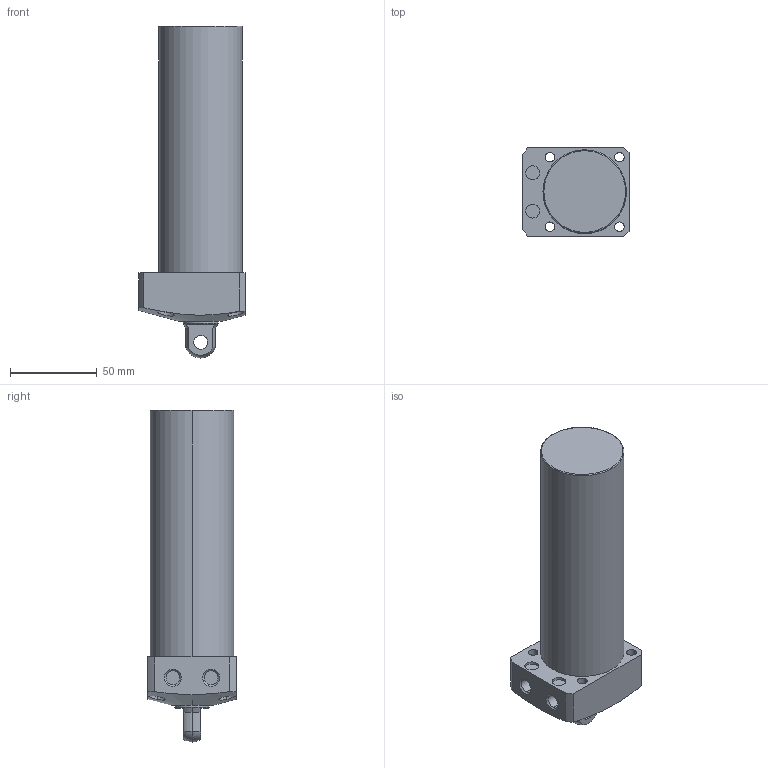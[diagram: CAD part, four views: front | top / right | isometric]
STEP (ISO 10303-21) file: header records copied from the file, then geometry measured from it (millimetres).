
FILE_DESCRIPTION (( 'STEP AP203' ), '1' );
FILE_NAME ('CLL-048CP-115.STEP', '2019-12-21T06:57:13', ( '' ), ( '' ), 'SwSTEP 2.0', 'SolidWorks 2015', '' );
FILE_SCHEMA (( 'CONFIG_CONTROL_DESIGN' ));
Length unit declared in the file: millimetre
Products named in the file (1): CLL-048CP-115
Bounding box: 61 x 51 x 191 mm (x, y, z)
Volume: 332295 mm3; surface area: 36232.5 mm2
Topology: 1 solids, 1 shells, 68 faces, 159 edges, 103 vertices
Faces by surface type: cylinder 35, plane 21, cone 8, sphere 2, torus 2
Entity records: 2390 total; most frequent: CARTESIAN_POINT 693, DIRECTION 357, ORIENTED_EDGE 318, EDGE_CURVE 159, AXIS2_PLACEMENT_3D 149, VERTEX_POINT 103, EDGE_LOOP 88, CIRCLE 80
